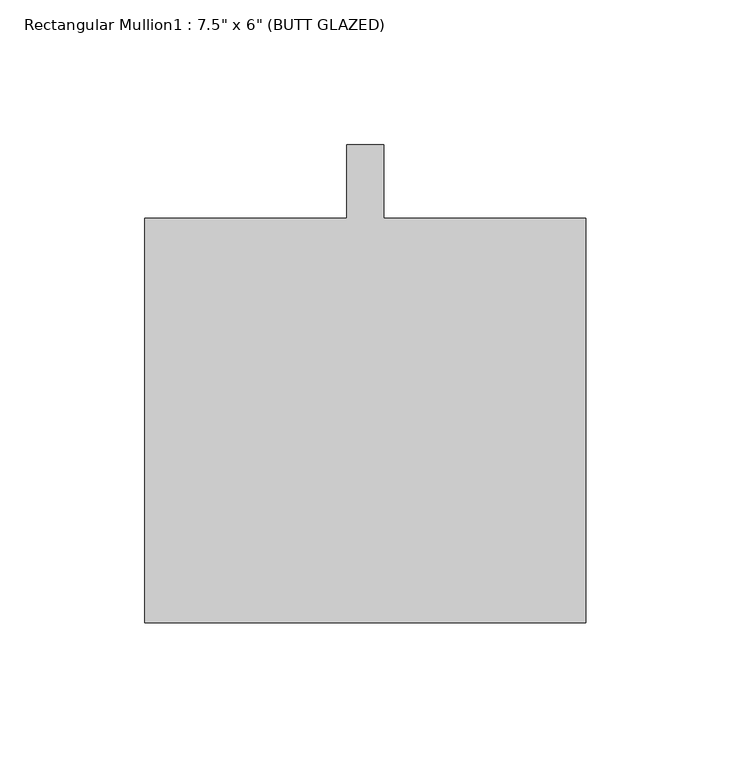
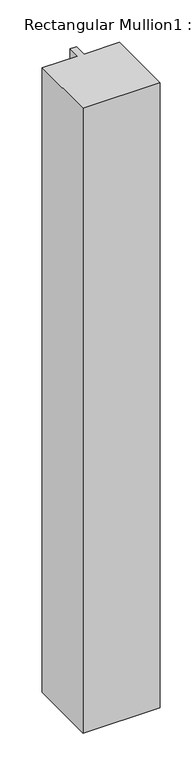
"""IFC4 building model written with IfcOpenShell, lengths in millimetres: member geometry."""

from ifc_helpers import new_model, si_unit, frame, origin, place, context, project, spatial, polyline, outline, extrude, source, transform, mapped, element, save


def member_38795d5d(model_context):
    return source(origin(), model_context, "Body", "SweptSolid", [
        extrude(outline(polyline([(76.2, -165.1), (-76.2, -165.1), (-76.2, -25.4), (-6.35, -25.4), (-6.35, 0.0), (6.35, 0.0), (6.35, -25.4), (76.2, -25.4), (76.2, -165.1)])), frame((0.0, 0.0, -1302.9851639), z_axis=(0.0, 0.0, 1.0), x_axis=(1.0, 0.0, 0.0)), (0.0, 0.0, 1.0), 1302.9851639),
    ])


if __name__ == "__main__":
    model = new_model("IFC4")
    model_context = context("Model", 3, world=origin())
    ifc_project = project(units=[si_unit("LENGTHUNIT", "METRE", prefix="MILLI")], contexts=[model_context])
    site = spatial("IfcSite", under=ifc_project)
    building = spatial("IfcBuilding", under=site)
    placement = place(None, origin())
    member_shape = member_38795d5d(model_context)
    element("IfcMember", 1, ObjectType="Rectangular Mullion1 : 7.5\" x 6\" (BUTT GLAZED)", at=placement, inside=building, context=model_context, shape_type="MappedRepresentation", body=[
        mapped(member_shape, transform((0.0, 0.0, 0.0), x_axis=(1.0, 0.0, 0.0), y_axis=(0.0, 1.0, 0.0), z_axis=(0.0, 0.0, 1.0))),
    ])
    save(model, "model.ifc")
